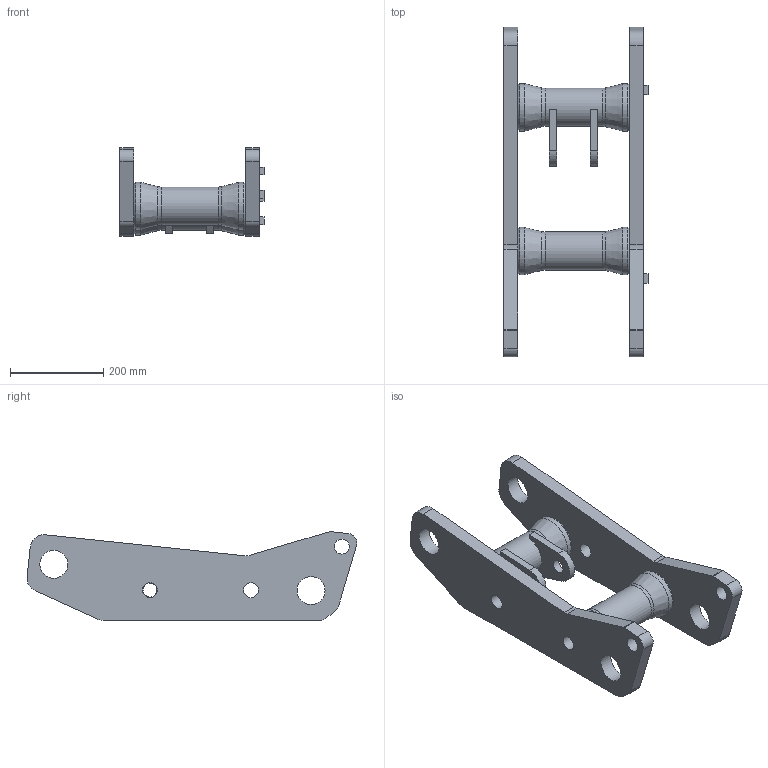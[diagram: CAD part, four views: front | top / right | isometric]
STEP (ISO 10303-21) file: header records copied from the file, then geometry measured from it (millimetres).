
FILE_DESCRIPTION(('STEP AP203'), '1');
FILE_NAME('Ñáîðêà _ Ðû÷àã Lemken ID_39152 (4367460).00', '', ('UNSPECIFIED'), ('UNSPECIFIED'), 'C3D Converter', 'C3D Toolkit', '');
FILE_SCHEMA(('CONFIG_CONTROL_DESIGN'));
Length unit declared in the file: millimetre
Products named in the file (5): Рычаг Lemken ID_39152 (4367460).00; Рычаг Lemken ID_39152 (4367460).04; Рычаг Lemken ID_39152 (4367460).01; Рычаг Lemken ID_39152 (4367460).02; Рычаг Lemken ID_39152 (4367460).03
Assembly tree (10 placements, depth 2):
  Рычаг Lemken ID_39152 (4367460).00
    Рычаг Lemken ID_39152 (4367460).04  x2
    Рычаг Lemken ID_39152 (4367460).01  x2
    Рычаг Lemken ID_39152 (4367460).02  x2
    Рычаг Lemken ID_39152 (4367460).03  x4
Bounding box: 310 x 708.6 x 190.63 mm (x, y, z)
Volume: 8288815.3 mm3; surface area: 806856.1 mm2
Topology: 10 solids, 10 shells, 116 faces, 270 edges, 178 vertices
Faces by surface type: plane 60, cylinder 40, cone 12, torus 4
Full cylindrical faces by diameter (mm): 30.05 x2, 32.1 x6, 45 x2, 60.1 x4, 82 x2, 102 x4
Entity records: 1868 total; most frequent: DIRECTION 278, CARTESIAN_POINT 249, ORIENTED_EDGE 210, AXIS2_PLACEMENT_3D 110, EDGE_CURVE 105, EDGE_LOOP 84, VERTEX_POINT 79, LINE 58
